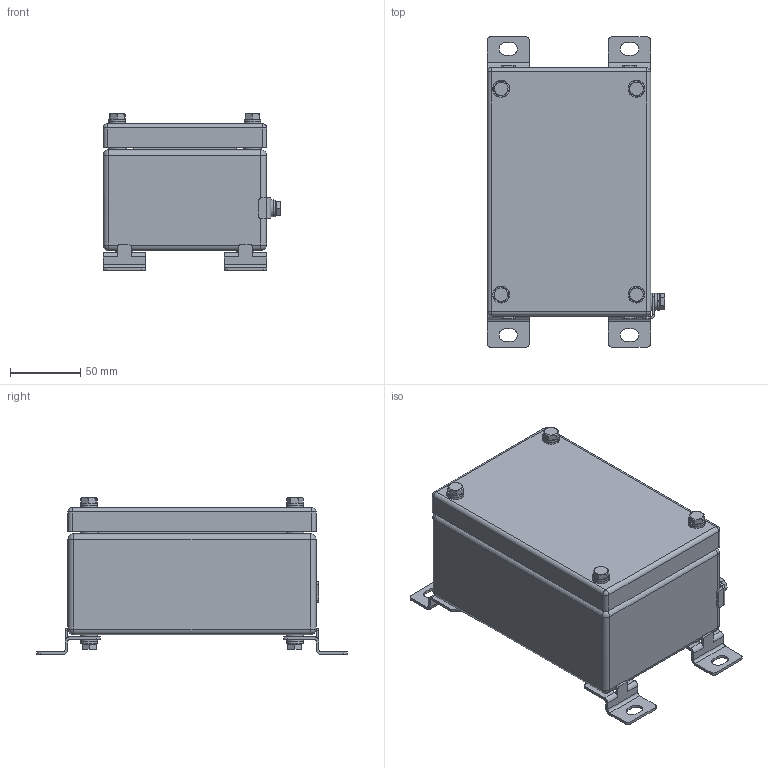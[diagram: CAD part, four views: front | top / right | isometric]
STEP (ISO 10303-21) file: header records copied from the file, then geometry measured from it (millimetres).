
FILE_DESCRIPTION((''),'2;1');
FILE_NAME('\\192.168.5.25\cortem_klient\INVENTOR БАЗА МОДЕЛЕЙ\Актуальная база моделей для отдела продаж\КСРВ-М\КСРВ-М171109_М3.stp','2019-04-09T14:34:30',('A.S.Kozlov'),(''),'Autodesk Inventor 2012','Autodesk Inventor 2012','');
FILE_SCHEMA(('CONFIG_CONTROL_DESIGN'));
Length unit declared in the file: millimetre
Products named in the file (1): КСРВ-(параметрическая модель)_Внешний контур_1
Bounding box: 126.2 x 220 x 111.2 mm (x, y, z)
Surface area: 155244.3 mm2 (no closed solid volume)
Topology: 0 solids, 55 shells, 345 faces, 1025 edges, 689 vertices
Faces by surface type: plane 186, cylinder 123, cone 24, sphere 12
Full cylindrical faces by diameter (mm): 5 x1, 5.459 x1, 9 x2, 10 x4, 12 x14, 12.7 x4
Entity records: 11851 total; most frequent: CARTESIAN_POINT 2179, DIRECTION 1952, ORIENTED_EDGE 1676, EDGE_CURVE 984, AXIS2_PLACEMENT_3D 706, VERTEX_POINT 681, VECTOR 540, LINE 540
